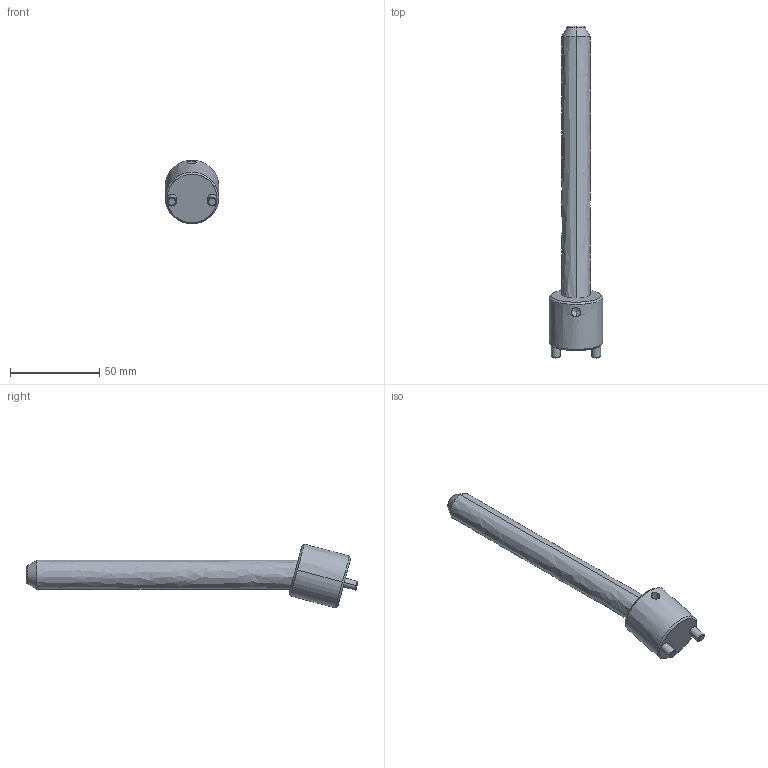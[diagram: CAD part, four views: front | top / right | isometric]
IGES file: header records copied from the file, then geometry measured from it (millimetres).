
Start section: START RECORD GO HERE.
Global section: file name: CI1516150.igs; native system: DASSAULT SYSTEMES CATIA V5 R20 - www.3ds.com; preprocessor: CATIA Version 5 Release 20 ; author: r.borello; organization: CFTORINO; date: 20190621.161427; units: millimetre
Bounding box: 30 x 185.58 x 35.71 mm (x, y, z)
Surface area: 14475.6 mm2 (no closed solid volume)
Topology: 0 solids, 0 shells, 39 faces, 162 edges, 160 vertices
Faces by surface type: revolution 32, plane 7
